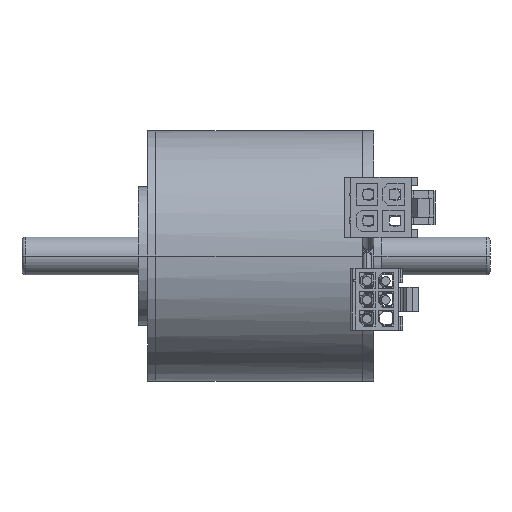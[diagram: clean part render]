
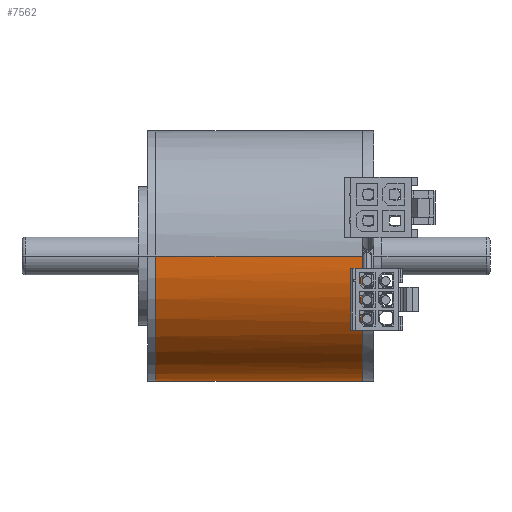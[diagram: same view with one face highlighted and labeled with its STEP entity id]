
A CAD part, front view. The second image highlights one B-rep face of the part: STEP entity #7562.
In plain terms, the highlighted cylindrical face has radius 19.95 mm (diameter 39.9 mm), a partial arc.
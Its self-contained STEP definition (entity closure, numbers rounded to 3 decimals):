
#991=CARTESIAN_POINT('',(34.2,0.,0.));
#992=DIRECTION('',(-1.,0.,0.));
#993=DIRECTION('',(0.,1.,0.));
#994=AXIS2_PLACEMENT_3D('',#991,#992,#993);
#1005=DIRECTION('',(1.,0.,0.));
#1006=VECTOR('',#1005,32.9);
#1007=CARTESIAN_POINT('',(1.3,-19.95,0.));
#1008=LINE('',#1007,#1006);
#1014=DIRECTION('',(1.,0.,0.));
#1015=VECTOR('',#1014,32.9);
#1016=CARTESIAN_POINT('',(1.3,19.95,0.));
#1017=LINE('',#1016,#1015);
#1018=CARTESIAN_POINT('',(34.2,0.,0.));
#1019=DIRECTION('',(-1.,0.,0.));
#1020=DIRECTION('',(0.,-0.945,-0.328));
#1021=AXIS2_PLACEMENT_3D('',#1018,#1019,#1020);
#1023=CARTESIAN_POINT('',(1.3,0.,0.));
#1024=DIRECTION('',(-1.,0.,0.));
#1025=DIRECTION('',(0.,1.,0.));
#1026=AXIS2_PLACEMENT_3D('',#1023,#1024,#1025);
#5729=CARTESIAN_POINT('',(34.2,-18.844,-6.55));
#5730=VERTEX_POINT('',#5729);
#5737=CARTESIAN_POINT('',(1.3,19.95,0.));
#5738=CARTESIAN_POINT('',(34.2,19.95,0.));
#5739=VERTEX_POINT('',#5737);
#5740=VERTEX_POINT('',#5738);
#5741=CARTESIAN_POINT('',(1.3,-19.95,0.));
#5742=VERTEX_POINT('',#5741);
#5745=CARTESIAN_POINT('',(34.2,-19.95,0.));
#5746=VERTEX_POINT('',#5745);
#7549=CARTESIAN_POINT('',(35.845,0.,0.));
#7550=DIRECTION('',(-1.,0.,0.));
#7551=DIRECTION('',(0.,1.,0.));
#7552=AXIS2_PLACEMENT_3D('',#7549,#7550,#7551);
#7553=CYLINDRICAL_SURFACE('',#7552,19.95);
#7554=ORIENTED_EDGE('',*,*,#7432,.F.);
#7555=ORIENTED_EDGE('',*,*,#7524,.F.);
#7556=ORIENTED_EDGE('',*,*,#7543,.F.);
#7558=ORIENTED_EDGE('',*,*,#7557,.T.);
#7559=ORIENTED_EDGE('',*,*,#7539,.T.);
#7560=EDGE_LOOP('',(#7554,#7555,#7556,#7558,#7559));
#7561=FACE_OUTER_BOUND('',#7560,.F.);
#995=CIRCLE('',#994,19.95);
#1022=CIRCLE('',#1021,19.95);
#1027=CIRCLE('',#1026,19.95);
#7432=EDGE_CURVE('',#5730,#5746,#1022,.T.);
#7524=EDGE_CURVE('',#5740,#5730,#995,.T.);
#7539=EDGE_CURVE('',#5742,#5746,#1008,.T.);
#7543=EDGE_CURVE('',#5739,#5740,#1017,.T.);
#7557=EDGE_CURVE('',#5739,#5742,#1027,.T.);
#7562=ADVANCED_FACE('',(#7561),#7553,.T.);
